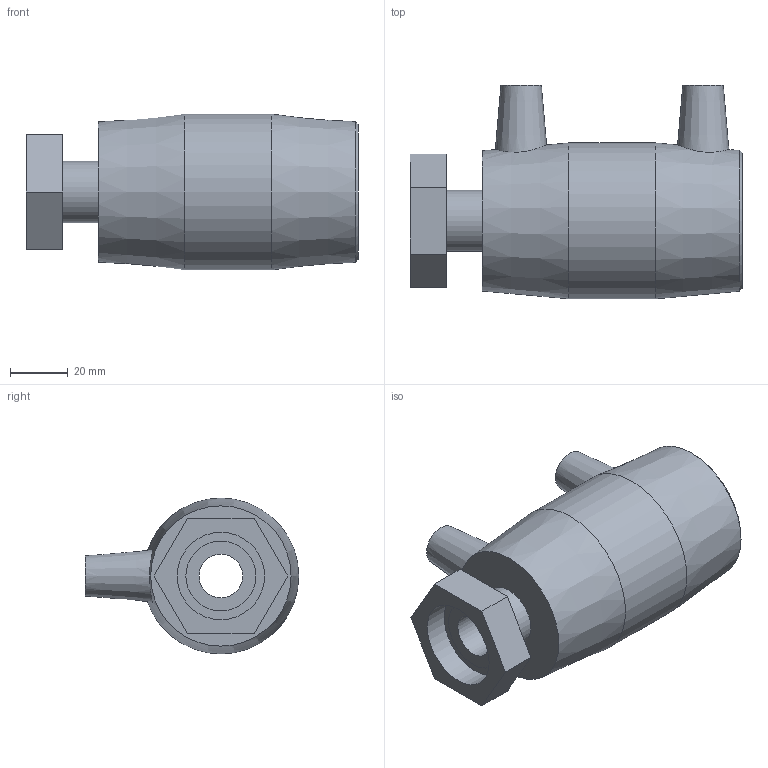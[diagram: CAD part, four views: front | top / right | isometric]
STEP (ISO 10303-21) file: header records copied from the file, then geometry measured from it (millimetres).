
FILE_DESCRIPTION(/* description */ ('PLASSON FEMALE FREE NUT TRANSITION COUPLER 40-1"'),/* implementation_level */ '2;1');
FILE_NAME(/* name */ '494104040010.stp',/* time_stamp */ '2026-05-12T11:34:30+03:00',/* author */ ('KIM'),/* organization */ (''),/* preprocessor_version */ 'ST-DEVELOPER v20.1',/* originating_system */ 'Autodesk Inventor 2026',/* authorisation */ '');
FILE_SCHEMA (('AUTOMOTIVE_DESIGN { 1 0 10303 214 3 1 1 }'));
Length unit declared in the file: millimetre
Products named in the file (1): 494104040010
Bounding box: 115 x 74 x 54 mm (x, y, z)
Volume: 108126.7 mm3; surface area: 38410.8 mm2
Topology: 1 solids, 1 shells, 36 faces, 66 edges, 44 vertices
Faces by surface type: plane 20, cylinder 11, cone 5
Full cylindrical faces by diameter (mm): 4 x2, 10 x2, 15.146 x1, 21.204 x1, 24.233 x1, 30.291 x1, 38 x1, 40 x1, 54 x1
Entity records: 1005 total; most frequent: CARTESIAN_POINT 215, DIRECTION 164, ORIENTED_EDGE 132, EDGE_CURVE 66, AXIS2_PLACEMENT_3D 65, EDGE_LOOP 50, VERTEX_POINT 44, FACE_OUTER_BOUND 36
